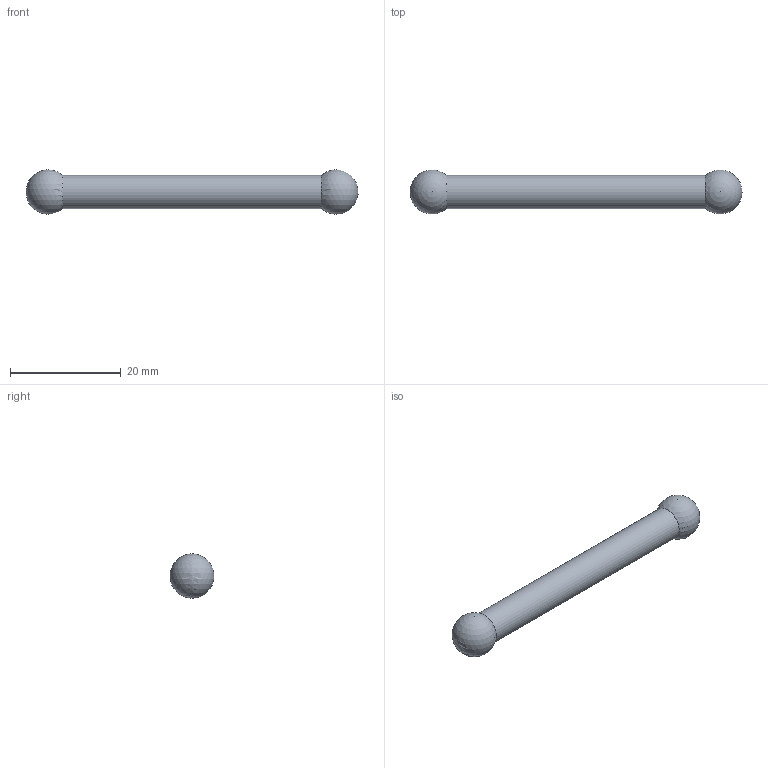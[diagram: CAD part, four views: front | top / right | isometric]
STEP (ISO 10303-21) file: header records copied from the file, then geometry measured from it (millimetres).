
FILE_DESCRIPTION(/* description */ (''),/* implementation_level */ '2;1');
FILE_NAME(/* name */ 'H:\5-Olympiades\47e\Sujet Régional\Etau\A donner aux candidats\2-Après-Midi\16-Levier de blocage Rotule.stp',/* time_stamp */ '2022-03-30T08:38:04+02:00',/* author */ ('Philippe'),/* organization */ (''),/* preprocessor_version */ 'ST-DEVELOPER v18',/* originating_system */ 'Autodesk Inventor 2020',/* authorisation */ '');
FILE_SCHEMA (('AUTOMOTIVE_DESIGN { 1 0 10303 214 3 1 1 }'));
Length unit declared in the file: millimetre
Products named in the file (1): 16-Levier de blocage Rotule
Bounding box: 59.97 x 7.94 x 8 mm (x, y, z)
Volume: 1815.9 mm3; surface area: 1214.5 mm2
Topology: 1 solids, 1 shells, 3 faces, 14 edges, 10 vertices
Faces by surface type: sphere 2, cylinder 1
Full cylindrical faces by diameter (mm): 6 x1
Entity records: 174 total; most frequent: DIRECTION 27, CARTESIAN_POINT 24, ORIENTED_EDGE 20, AXIS2_PLACEMENT_3D 13, VERTEX_POINT 10, EDGE_CURVE 10, CIRCLE 9, EDGE_LOOP 4
